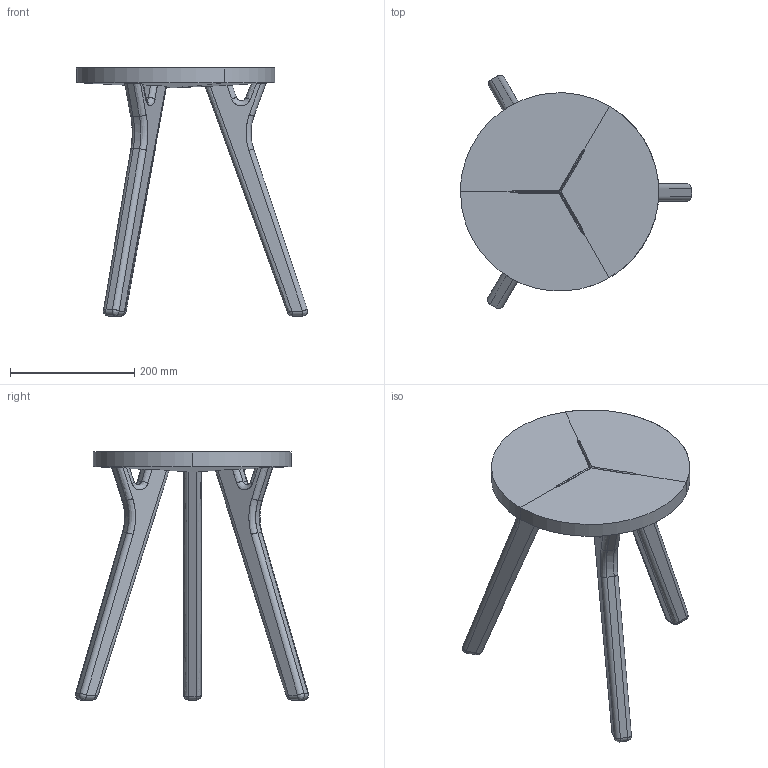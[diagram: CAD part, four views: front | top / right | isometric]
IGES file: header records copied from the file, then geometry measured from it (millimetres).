
Global section: file name: C:\Users\Timo Mikkonen\Desktop\Nikari 3d. tiedostot rfa\STOOLS & BENCHES\iges\August Stool.igs; native system: Rhinoceros ( Sep  8 2025 ); preprocessor: Trout Lake IGES 012 Sep  8 2025; date: 250916.081908; units: millimetre
Bounding box: 372.8 x 376.38 x 400.04 mm (x, y, z)
Surface area: 342943.2 mm2 (no closed solid volume)
Topology: 0 solids, 0 shells, 124 faces, 1391 edges, 1388 vertices
Faces by surface type: bspline 124
